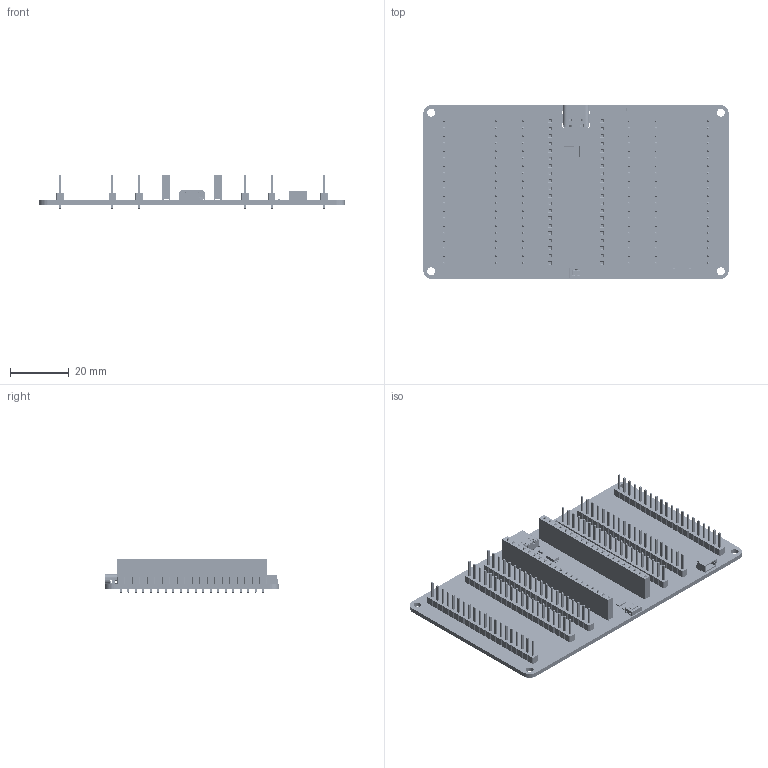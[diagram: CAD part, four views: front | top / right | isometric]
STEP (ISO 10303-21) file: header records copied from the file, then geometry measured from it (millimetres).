
FILE_DESCRIPTION(('KiCad electronic assembly'),'2;1');
FILE_NAME('KAmodRPi Pico Dual Expander.step','2025-09-01T08:57:41',( 'Pcbnew'),('Kicad'),'Open CASCADE STEP processor 7.9', 'KiCad to STEP converter','Unknown');
FILE_SCHEMA(('AUTOMOTIVE_DESIGN { 1 0 10303 214 1 1 1 1 }'));
Length unit declared in the file: millimetre
Products named in the file (17): KAmodRPi Pico Dual Expander 1; D_SOD-128; Fuse_1206_3216Metric; C_0402_1005Metric; PinHeader_1x20_P2.54mm_Vertical; R_0402_1005Metric; PinSocket_1x20_P2.54mm_Vertical; SPARKFUN_QWIIC_RIGHT_ANGLE; LED_0603_1608Metric; C_0603_1608Metric; SW_SPST_EVQP2; R_1812_4532Metric; USB_C_Receptacle_GCT_USB4105-xx-A_16P_TopMnt_Horizontal; KAmodRPi Pico Dual Expander_pad; KAmodRPi Pico Dual Expander_silkscreen; KAmodRPi Pico Dual Expander_soldermask; KAmodRPi Pico Dual Expander_PCB
Assembly tree (27 placements, depth 2):
  KAmodRPi Pico Dual Expander 1
    D_SOD-128
    Fuse_1206_3216Metric
    C_0402_1005Metric  x2
    PinHeader_1x20_P2.54mm_Vertical  x6
    R_0402_1005Metric  x5
    PinSocket_1x20_P2.54mm_Vertical  x2
    SPARKFUN_QWIIC_RIGHT_ANGLE
    LED_0603_1608Metric
    C_0603_1608Metric
    SW_SPST_EVQP2
    R_1812_4532Metric
    USB_C_Receptacle_GCT_USB4105-xx-A_16P_TopMnt_Horizontal
    KAmodRPi Pico Dual Expander_pad
    KAmodRPi Pico Dual Expander_silkscreen
    KAmodRPi Pico Dual Expander_soldermask
    KAmodRPi Pico Dual Expander_PCB
Bounding box: 103.63 x 59.18 x 11.64 mm (x, y, z)
Volume: 13703.8 mm3; surface area: 38465.8 mm2
Topology: 604 solids, 1106 shells, 8363 faces, 40319 edges, 33992 vertices
Faces by surface type: plane 6797, cylinder 1544, bspline 10, cone 8, torus 4
Full cylindrical faces by diameter (mm): 0.5 x2, 0.65 x2, 0.95 x360, 0.97 x123, 1 x241, 1.02 x80, 1.6 x2, 1.7 x292, 2.7 x4
Entity records: 346178 total; most frequent: CARTESIAN_POINT 67560, DIRECTION 50166, ORIENTED_EDGE 42838, EDGE_CURVE 32761, VERTEX_POINT 29252, LINE 25890, VECTOR 25890, AXIS2_PLACEMENT_3D 12138
